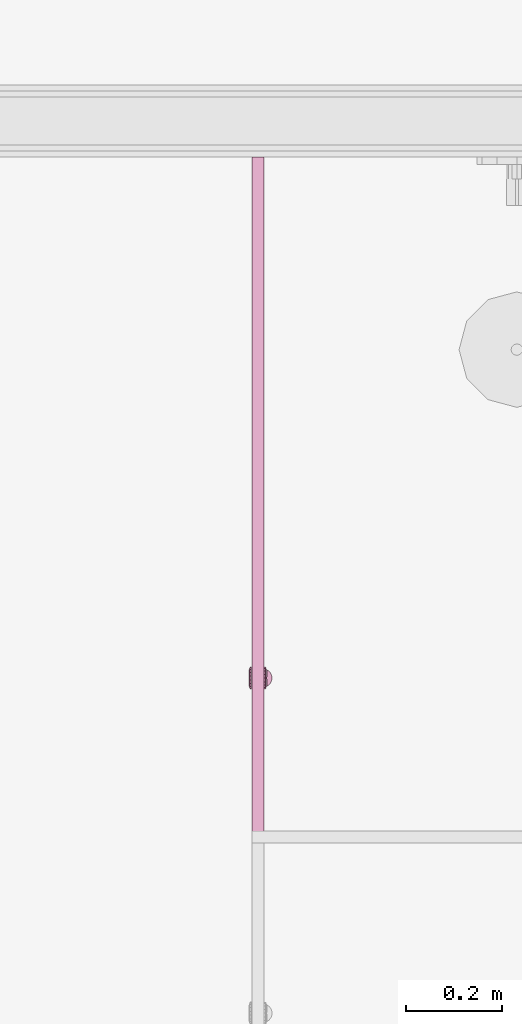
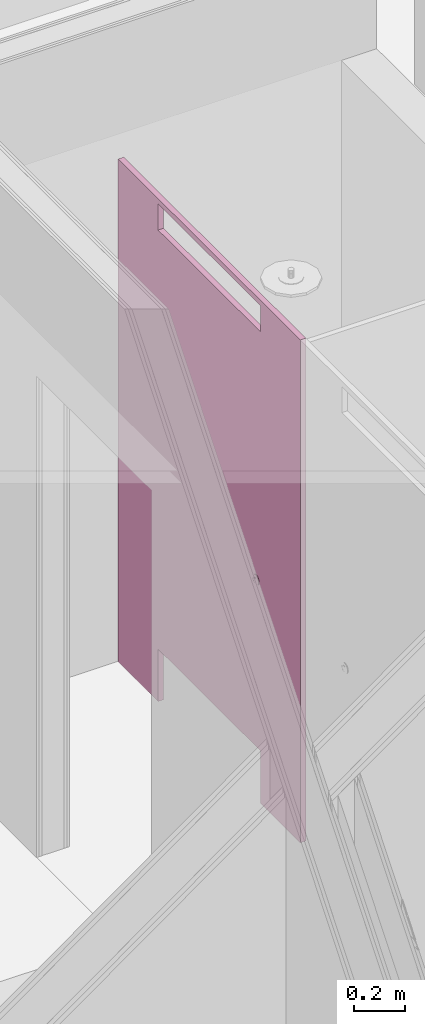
# One storey, part 32 of 35: 1 furnishing.
"""IFC2X3 building model written with IfcOpenShell, lengths in millimetres."""

from ifc_helpers import new_model, entity, si_unit, converted_unit, derived_unit, money_unit, direction, frame, origin_with_axes, place, context, subcontext, project, spatial, open_shell, faceted_brep, surface_model, type_object, element, save


model = new_model("IFC2X3")

# Units and contexts
model_context = context("Model", 3, precision=0.01, world=origin_with_axes(), true_north=direction((0.0, 1.0)))
body_context = subcontext(model_context, "Body", "Model", "MODEL_VIEW")
ifc_project = project(units=[si_unit("LENGTHUNIT", "METRE", prefix="MILLI"), si_unit("AREAUNIT", "SQUARE_METRE"), si_unit("VOLUMEUNIT", "CUBIC_METRE"), converted_unit("PLANEANGLEUNIT", "DEGREE", entity("IfcPlaneAngleMeasure", 0.0174532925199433), si_unit("PLANEANGLEUNIT", "RADIAN"), dimensions=[0, 0, 0, 0, 0, 0, 0]), money_unit("EUR"), converted_unit("TIMEUNIT", "Year", entity("IfcTimeMeasure", 31557600.0), si_unit("TIMEUNIT", "SECOND"), dimensions=[0, 0, 1, 0, 0, 0, 0]), si_unit("MASSUNIT", "GRAM", prefix="KILO"), si_unit("THERMODYNAMICTEMPERATUREUNIT", "DEGREE_CELSIUS"), si_unit("LUMINOUSINTENSITYUNIT", "LUMEN"), si_unit("ENERGYUNIT", "JOULE", prefix="MEGA"), derived_unit("THERMALCONDUCTANCEUNIT", [(si_unit("POWERUNIT", "WATT"), 1), (si_unit("LENGTHUNIT", "METRE"), -1), (si_unit("THERMODYNAMICTEMPERATUREUNIT", "KELVIN"), -1)]), derived_unit("SPECIFICHEATCAPACITYUNIT", [(si_unit("ENERGYUNIT", "JOULE"), 1), (si_unit("MASSUNIT", "GRAM", prefix="KILO"), -1), (si_unit("THERMODYNAMICTEMPERATUREUNIT", "KELVIN"), -1)]), derived_unit("MASSDENSITYUNIT", [(si_unit("MASSUNIT", "GRAM", prefix="KILO"), 1), (si_unit("VOLUMEUNIT", "CUBIC_METRE"), -1)])], contexts=[model_context])

# Site, building, storey
site_placement = place(None, origin_with_axes())
site = spatial("IfcSite", under=ifc_project, at=site_placement, Name="<site naam>", CompositionType="ELEMENT")
building_placement = place(site_placement, origin_with_axes())
building = spatial("IfcBuilding", under=site, at=building_placement, Name="<Naam gebouw>", CompositionType="ELEMENT")
storey_placement = place(building_placement, frame((0.0, 0.0, 6345.0), z_axis=(0.0, 0.0, 1.0), x_axis=(1.0, 0.0, 0.0)))
storey = spatial("IfcBuildingStorey", under=building, at=storey_placement, Name="02 2e tussenverdieping", CompositionType="ELEMENT", Elevation=6345.0)

# Furnishing
furnishing_element_type = type_object("IfcFurnishingElementType", Name="Sanitaire wanden 27")
furnishing_placement = place(storey_placement, frame((57150.37950881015, 15824.99999999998, 0.0), z_axis=(0.0, 0.0, 1.0), x_axis=(0.0, -1.0, 0.0)))
element("IfcFurnishingElement", 1, at=furnishing_placement, inside=storey, type_object=furnishing_element_type, Name="72_Sanitaire wanden Kupan_Lege", context=body_context, shape_type="SurfaceModel", body=[
    faceted_brep([(0.0, 0.0, 0.0), (312.4999999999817, 0.0, 0.0), (312.4999999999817, 0.0, 2375.0), (0.0, 0.0, 2375.0), (0.0, 25.0, 0.0), (312.4999999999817, 25.0, 0.0), (312.4999999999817, 25.0, 2375.0), (0.0, 25.0, 2375.0)], [[[0, 1, 2, 3]], [[0, 4, 5, 1]], [[1, 5, 6, 2]], [[3, 2, 6, 7]], [[4, 0, 3, 7]], [[5, 4, 7, 6]]]),
    faceted_brep([(1112.499999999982, 0.0, 0.0), (1424.999999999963, 0.0, 0.0), (1424.999999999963, 0.0, 2375.0), (1112.499999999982, 0.0, 2375.0), (1112.499999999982, 25.0, 0.0), (1424.999999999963, 25.0, 0.0), (1424.999999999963, 25.0, 2375.0), (1112.499999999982, 25.0, 2375.0)], [[[0, 1, 2, 3]], [[0, 4, 5, 1]], [[1, 5, 6, 2]], [[3, 2, 6, 7]], [[4, 0, 3, 7]], [[5, 4, 7, 6]]]),
    surface_model("IfcShellBasedSurfaceModel", [(0.0, 0.0, 0.0), (0.0, 25.0, 0.0), (312.4999999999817, 25.0, 0.0), (312.4999999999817, 0.0, 0.0)], [open_shell([[[0, 1, 2, 3]]])]),
    surface_model("IfcShellBasedSurfaceModel", [(1112.499999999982, 0.0, 0.0), (1112.499999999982, 25.0, 0.0), (1424.999999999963, 25.0, 0.0), (1424.999999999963, 0.0, 0.0)], [open_shell([[[0, 1, 2, 3]]])]),
    faceted_brep([(1424.999999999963, 0.0, 2375.0), (1424.999999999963, 25.0, 2375.0), (1424.999999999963, 25.0, 2400.0), (1424.999999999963, 0.0, 2400.0), (0.0, 0.0, 2375.0), (0.0, 25.0, 2375.0), (0.0, 25.0, 2400.0), (0.0, 0.0, 2400.0)], [[[0, 1, 2, 3]], [[0, 4, 5, 1]], [[1, 5, 6, 2]], [[3, 2, 6, 7]], [[4, 0, 3, 7]], [[5, 4, 7, 6]]]),
    faceted_brep([(312.4999999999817, 0.0, 250.0), (1112.499999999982, 0.0, 250.0), (1112.499999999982, 0.0, 2250.0), (312.4999999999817, 0.0, 2250.0), (312.4999999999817, 25.0, 250.0), (1112.499999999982, 25.0, 250.0), (1112.499999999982, 25.0, 2250.0), (312.4999999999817, 25.0, 2250.0)], [[[0, 1, 2, 3]], [[0, 4, 5, 1]], [[1, 5, 6, 2]], [[3, 2, 6, 7]], [[4, 0, 3, 7]], [[5, 4, 7, 6]]]),
    faceted_brep([(1080.499999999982, 30.0, 1048.5), (1080.499999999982, 30.0, 1051.5), (1080.499999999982, 31.0, 1051.5), (1080.499999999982, 31.0, 1048.5), (1084.499999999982, 30.0, 1048.5), (1084.499999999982, 30.0, 1051.5), (1084.499999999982, 31.0, 1051.5), (1099.499999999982, 31.0, 1051.5), (1097.166348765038, 34.44581109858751, 1051.5), (1094.146171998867, 37.30903908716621, 1051.5), (1090.580842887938, 39.4556574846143, 1051.5), (1086.637252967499, 40.78518399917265, 1051.5), (1082.499999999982, 41.23538406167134, 1051.5), (1078.362747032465, 40.78518399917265, 1051.5), (1074.419157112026, 39.4556574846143, 1051.5), (1070.853828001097, 37.3090390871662, 1051.5), (1067.833651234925, 34.4458110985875, 1051.5), (1065.499999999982, 31.0, 1051.5), (1065.499999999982, 31.0, 1048.5), (1067.833651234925, 34.4458110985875, 1048.5), (1070.853828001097, 37.3090390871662, 1048.5), (1074.419157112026, 39.4556574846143, 1048.5), (1078.362747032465, 40.78518399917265, 1048.5), (1082.499999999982, 41.23538406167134, 1048.5), (1086.637252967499, 40.78518399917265, 1048.5), (1090.580842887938, 39.4556574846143, 1048.5), (1094.146171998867, 37.30903908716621, 1048.5), (1097.166348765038, 34.44581109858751, 1048.5), (1099.499999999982, 31.0, 1048.5), (1084.499999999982, 31.0, 1048.5)], [[[0, 1, 2, 3]], [[4, 5, 1, 0]], [[1, 5, 6, 7, 8, 9, 10, 11, 12, 13, 14, 15, 16, 17, 2]], [[3, 2, 17, 18]], [[0, 3, 18, 19, 20, 21, 22, 23, 24, 25, 26, 27, 28, 29, 4]], [[29, 6, 5, 4]], [[28, 7, 6, 29]], [[27, 8, 7, 28]], [[26, 9, 8, 27]], [[25, 10, 9, 26]], [[24, 11, 10, 25]], [[23, 12, 11, 24]], [[22, 13, 12, 23]], [[21, 14, 13, 22]], [[20, 15, 14, 21]], [[19, 16, 15, 20]], [[18, 17, 16, 19]]]),
    surface_model("IfcShellBasedSurfaceModel", [(1076.685657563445, 30.0, 1065.97477455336), (1074.633536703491, 28.0, 1071.612930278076), (1082.499999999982, 28.0, 1073.0), (1082.499999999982, 30.0, 1067.0), (1071.572610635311, 30.0, 1063.022755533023), (1067.715884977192, 28.0, 1067.619022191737), (1074.633536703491, 25.0, 1071.612930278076), (1082.499999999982, 25.0, 1073.0), (1090.366463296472, 28.0, 1071.612930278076), (1088.314342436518, 30.0, 1065.97477455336), (1093.427389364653, 30.0, 1063.022755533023), (1097.222431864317, 30.0, 1058.5), (1099.241731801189, 30.0, 1052.952019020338), (1099.241731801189, 30.0, 1047.047980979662), (1097.222431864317, 30.0, 1041.5), (1093.427389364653, 30.0, 1036.977244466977), (1088.314342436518, 30.0, 1034.02522544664), (1082.499999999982, 30.0, 1033.0), (1076.685657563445, 30.0, 1034.02522544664), (1071.572610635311, 30.0, 1036.977244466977), (1067.777568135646, 30.0, 1041.5), (1065.758268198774, 30.0, 1047.047980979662), (1065.758268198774, 30.0, 1052.952019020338), (1067.777568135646, 30.0, 1058.5), (1062.58141571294, 28.0, 1061.5), (1067.715884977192, 25.0, 1067.619022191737), (1090.366463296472, 25.0, 1071.612930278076), (1097.284115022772, 28.0, 1067.619022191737), (1102.418584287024, 28.0, 1061.5), (1105.150578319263, 28.0, 1053.993908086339), (1105.150578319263, 28.0, 1046.006091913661), (1102.418584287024, 28.0, 1038.5), (1097.284115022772, 28.0, 1032.380977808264), (1090.366463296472, 28.0, 1028.387069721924), (1082.499999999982, 28.0, 1027.0), (1074.633536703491, 28.0, 1028.387069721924), (1067.715884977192, 28.0, 1032.380977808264), (1062.58141571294, 28.0, 1038.5), (1059.849421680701, 28.0, 1046.006091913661), (1059.849421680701, 28.0, 1053.993908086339), (1062.58141571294, 25.0, 1061.5), (1097.284115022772, 25.0, 1067.619022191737), (1102.418584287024, 25.0, 1061.5), (1105.150578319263, 25.0, 1053.993908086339), (1105.150578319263, 25.0, 1046.006091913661), (1102.418584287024, 25.0, 1038.5), (1097.284115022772, 25.0, 1032.380977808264), (1090.366463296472, 25.0, 1028.387069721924), (1082.499999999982, 25.0, 1027.0), (1074.633536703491, 25.0, 1028.387069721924), (1067.715884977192, 25.0, 1032.380977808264), (1062.58141571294, 25.0, 1038.5), (1059.849421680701, 25.0, 1046.006091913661), (1059.849421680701, 25.0, 1053.993908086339)], [open_shell([[[0, 1, 2, 3]], [[4, 5, 1, 0]], [[1, 6, 7, 2]], [[3, 2, 8, 9]], [[3, 9, 10, 11, 12, 13, 14, 15, 16, 17, 18, 19, 20, 21, 22, 23, 4, 0]], [[23, 24, 5, 4]], [[5, 25, 6, 1]], [[2, 7, 26, 8]], [[9, 8, 27, 10]], [[10, 27, 28, 11]], [[11, 28, 29, 12]], [[12, 29, 30, 13]], [[13, 30, 31, 14]], [[14, 31, 32, 15]], [[15, 32, 33, 16]], [[16, 33, 34, 17]], [[17, 34, 35, 18]], [[18, 35, 36, 19]], [[19, 36, 37, 20]], [[20, 37, 38, 21]], [[21, 38, 39, 22]], [[22, 39, 24, 23]], [[24, 40, 25, 5]], [[8, 26, 41, 27]], [[27, 41, 42, 28]], [[28, 42, 43, 29]], [[29, 43, 44, 30]], [[30, 44, 45, 31]], [[31, 45, 46, 32]], [[32, 46, 47, 33]], [[33, 47, 48, 34]], [[34, 48, 49, 35]], [[35, 49, 50, 36]], [[36, 50, 51, 37]], [[37, 51, 52, 38]], [[38, 52, 53, 39]], [[39, 53, 40, 24]]])]),
    faceted_brep([(1059.499999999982, -1.200000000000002, 1050.0), (1059.499999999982, -4.200000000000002, 1050.0), (1060.887069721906, -4.200000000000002, 1057.866463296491), (1060.887069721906, -1.200000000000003, 1057.866463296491), (1060.887069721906, -1.200000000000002, 1042.13353670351), (1060.887069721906, -4.200000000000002, 1042.13353670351), (1064.880977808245, -4.2, 1035.215884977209), (1070.999999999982, -4.2, 1030.081415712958), (1078.506091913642, -4.199999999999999, 1027.349421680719), (1086.493908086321, -4.199999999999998, 1027.349421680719), (1093.999999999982, -4.199999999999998, 1030.081415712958), (1100.119022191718, -4.199999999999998, 1035.21588497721), (1104.112930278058, -4.199999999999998, 1042.13353670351), (1105.499999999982, -4.199999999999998, 1050.0), (1104.112930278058, -4.199999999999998, 1057.866463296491), (1100.119022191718, -4.199999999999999, 1064.78411502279), (1093.999999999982, -4.2, 1069.918584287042), (1086.493908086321, -4.2, 1072.650578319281), (1078.506091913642, -4.200000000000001, 1072.650578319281), (1070.999999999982, -4.200000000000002, 1069.918584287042), (1064.880977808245, -4.200000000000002, 1064.78411502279), (1064.880977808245, -1.200000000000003, 1064.78411502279), (1070.999999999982, -1.200000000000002, 1069.918584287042), (1078.506091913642, -1.200000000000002, 1072.650578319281), (1086.493908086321, -1.200000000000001, 1072.650578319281), (1093.999999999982, -1.2, 1069.918584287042), (1100.119022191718, -1.199999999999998, 1064.78411502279), (1104.112930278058, -1.199999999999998, 1057.866463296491), (1105.499999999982, -1.199999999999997, 1050.0), (1104.112930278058, -1.199999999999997, 1042.13353670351), (1100.119022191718, -1.199999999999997, 1035.21588497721), (1093.999999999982, -1.199999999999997, 1030.081415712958), (1086.493908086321, -1.199999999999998, 1027.349421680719), (1078.506091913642, -1.199999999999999, 1027.349421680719), (1070.999999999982, -1.2, 1030.081415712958), (1064.880977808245, -1.200000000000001, 1035.215884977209)], [[[0, 1, 2, 3]], [[4, 5, 1, 0]], [[1, 5, 6, 7, 8, 9, 10, 11, 12, 13, 14, 15, 16, 17, 18, 19, 20, 2]], [[3, 2, 20, 21]], [[0, 3, 21, 22, 23, 24, 25, 26, 27, 28, 29, 30, 31, 32, 33, 34, 35, 4]], [[35, 6, 5, 4]], [[34, 7, 6, 35]], [[33, 8, 7, 34]], [[32, 9, 8, 33]], [[31, 10, 9, 32]], [[30, 11, 10, 31]], [[29, 12, 11, 30]], [[28, 13, 12, 29]], [[27, 14, 13, 28]], [[26, 15, 14, 27]], [[25, 16, 15, 26]], [[24, 17, 16, 25]], [[23, 18, 17, 24]], [[22, 19, 18, 23]], [[21, 20, 19, 22]]]),
    faceted_brep([(1090.999999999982, -6.199999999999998, 1035.277568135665), (1095.522755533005, -6.199999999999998, 1039.072610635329), (1098.474774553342, -6.199999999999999, 1044.185657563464), (1099.499999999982, -6.199999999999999, 1050.0), (1098.474774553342, -6.199999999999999, 1055.814342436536), (1095.522755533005, -6.2, 1060.927389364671), (1090.999999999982, -6.2, 1064.722431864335), (1085.45201902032, -6.200000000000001, 1066.741731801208), (1079.547980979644, -6.200000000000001, 1066.741731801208), (1073.999999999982, -6.200000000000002, 1064.722431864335), (1069.477244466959, -6.200000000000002, 1060.927389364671), (1066.525225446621, -6.200000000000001, 1055.814342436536), (1065.499999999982, -6.200000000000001, 1050.0), (1066.525225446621, -6.200000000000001, 1044.185657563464), (1069.477244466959, -6.2, 1039.072610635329), (1073.999999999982, -6.2, 1035.277568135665), (1079.547980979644, -6.199999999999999, 1033.258268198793), (1085.45201902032, -6.199999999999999, 1033.258268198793), (1078.499999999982, -6.200000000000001, 1057.5), (1078.499999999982, -6.200000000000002, 1062.5), (1086.499999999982, -6.200000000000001, 1062.5), (1086.499999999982, -6.200000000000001, 1057.5), (1093.999999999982, -4.199999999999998, 1030.081415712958), (1100.119022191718, -4.199999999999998, 1035.21588497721), (1104.112930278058, -4.199999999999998, 1042.13353670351), (1105.499999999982, -4.199999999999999, 1050.0), (1104.112930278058, -4.199999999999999, 1057.866463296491), (1100.119022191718, -4.2, 1064.784115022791), (1093.999999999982, -4.2, 1069.918584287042), (1086.493908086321, -4.2, 1072.650578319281), (1078.506091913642, -4.200000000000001, 1072.650578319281), (1070.999999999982, -4.200000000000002, 1069.918584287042), (1064.880977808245, -4.200000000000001, 1064.78411502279), (1060.887069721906, -4.200000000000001, 1057.866463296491), (1059.499999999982, -4.2, 1050.0), (1060.887069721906, -4.2, 1042.13353670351), (1064.880977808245, -4.2, 1035.21588497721), (1070.999999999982, -4.199999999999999, 1030.081415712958), (1078.506091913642, -4.199999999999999, 1027.349421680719), (1086.493908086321, -4.199999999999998, 1027.349421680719), (1078.499999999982, -4.2, 1057.5), (1078.499999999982, -4.200000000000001, 1062.5), (1086.499999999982, -4.2, 1062.5), (1086.499999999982, -4.2, 1057.5)], [[[0, 1, 2, 3, 4, 5, 6, 7, 8, 9, 10, 11, 12, 13, 14, 15, 16, 17], [18, 19, 20, 21]], [[22, 23, 1, 0]], [[23, 24, 2, 1]], [[24, 25, 3, 2]], [[25, 26, 4, 3]], [[26, 27, 5, 4]], [[27, 28, 6, 5]], [[28, 29, 7, 6]], [[29, 30, 8, 7]], [[30, 31, 9, 8]], [[31, 32, 10, 9]], [[32, 33, 11, 10]], [[33, 34, 12, 11]], [[34, 35, 13, 12]], [[35, 36, 14, 13]], [[36, 37, 15, 14]], [[37, 38, 16, 15]], [[38, 39, 17, 16]], [[39, 22, 0, 17]], [[40, 41, 19, 18]], [[41, 42, 20, 19]], [[42, 43, 21, 20]], [[43, 40, 18, 21]], [[28, 27, 26, 25, 24, 23, 22, 39, 38, 37, 36, 35, 34, 33, 32, 31, 30, 29], [40, 43, 42, 41]]]),
    surface_model("IfcShellBasedSurfaceModel", [(1078.499999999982, -4.210000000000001, 1062.5), (1086.499999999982, -4.21, 1062.5), (1086.499999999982, -4.21, 1057.5), (1078.499999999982, -4.210000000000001, 1057.5)], [open_shell([[[0, 1, 2, 3]]])]),
])

save(model, "model.ifc")
